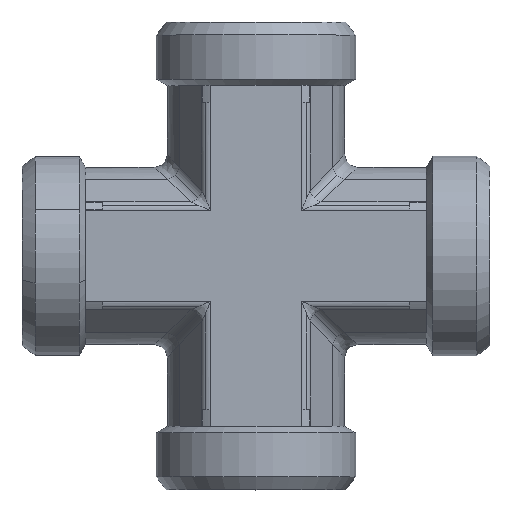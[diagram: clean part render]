
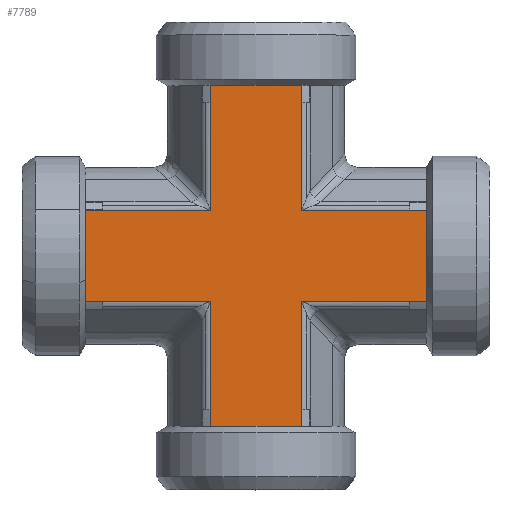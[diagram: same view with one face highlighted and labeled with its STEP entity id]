
A CAD part, top view. The second image highlights one B-rep face of the part: STEP entity #7789.
In plain terms, the highlighted planar face has unit normal (0, 0, 1) as drawn and (0, -1, 0) by its records, which use the part's own axes.
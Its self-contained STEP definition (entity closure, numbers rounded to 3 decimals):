
#915=CARTESIAN_POINT('',(-30.0,-13.25,0.));
#916=VERTEX_POINT('',#915);
#1032=CARTESIAN_POINT('',(-11.284,-13.25,-6.784));
#1033=VERTEX_POINT('',#1032);
#1041=CARTESIAN_POINT('',(-30.0,-13.25,-6.784));
#1042=VERTEX_POINT('',#1041);
#1043=CARTESIAN_POINT('',(-11.284,-13.25,-6.784));
#1044=DIRECTION('',(-1.0,0.0,0.0));
#1045=VECTOR('',#1044,18.716);
#1046=LINE('',#1043,#1045);
#1047=EDGE_CURVE('',#1033,#1042,#1046,.T.);
#1108=CARTESIAN_POINT('',(-30.0,-13.25,6.784));
#1109=VERTEX_POINT('',#1108);
#1117=CARTESIAN_POINT('',(-11.284,-13.25,6.784));
#1118=VERTEX_POINT('',#1117);
#1119=CARTESIAN_POINT('',(-30.0,-13.25,6.784));
#1120=DIRECTION('',(1.0,0.0,0.0));
#1121=VECTOR('',#1120,18.716);
#1122=LINE('',#1119,#1121);
#1123=EDGE_CURVE('',#1109,#1118,#1122,.T.);
#1452=CARTESIAN_POINT('',(-4.5,-13.25,25.5));
#1453=VERTEX_POINT('',#1452);
#1576=CARTESIAN_POINT('',(-11.284,-13.25,25.5));
#1577=VERTEX_POINT('',#1576);
#1578=CARTESIAN_POINT('',(-11.284,-13.25,6.784));
#1579=DIRECTION('',(0.0,0.0,1.0));
#1580=VECTOR('',#1579,18.716);
#1581=LINE('',#1578,#1580);
#1582=EDGE_CURVE('',#1118,#1577,#1581,.T.);
#2036=CARTESIAN_POINT('',(21.0,-13.25,0.));
#2037=VERTEX_POINT('',#2036);
#2145=CARTESIAN_POINT('',(2.284,-13.25,6.784));
#2146=VERTEX_POINT('',#2145);
#2154=CARTESIAN_POINT('',(21.0,-13.25,6.784));
#2155=VERTEX_POINT('',#2154);
#2156=CARTESIAN_POINT('',(2.284,-13.25,6.784));
#2157=DIRECTION('',(1.0,0.0,0.0));
#2158=VECTOR('',#2157,18.716);
#2159=LINE('',#2156,#2158);
#2160=EDGE_CURVE('',#2146,#2155,#2159,.T.);
#2709=CARTESIAN_POINT('',(2.284,-13.25,-6.784));
#2710=VERTEX_POINT('',#2709);
#2718=CARTESIAN_POINT('',(2.284,-13.25,-25.5));
#2719=VERTEX_POINT('',#2718);
#2720=CARTESIAN_POINT('',(2.284,-13.25,-6.784));
#2721=DIRECTION('',(0.0,0.0,-1.0));
#2722=VECTOR('',#2721,18.716);
#2723=LINE('',#2720,#2722);
#2724=EDGE_CURVE('',#2710,#2719,#2723,.T.);
#3745=CARTESIAN_POINT('',(-11.284,-13.25,-25.5));
#3746=VERTEX_POINT('',#3745);
#3754=CARTESIAN_POINT('',(-11.284,-13.25,-6.784));
#3755=DIRECTION('',(0.0,0.0,-1.0));
#3756=VECTOR('',#3755,18.716);
#3757=LINE('',#3754,#3756);
#3758=EDGE_CURVE('',#1033,#3746,#3757,.T.);
#3818=CARTESIAN_POINT('',(-4.5,-13.25,-25.5));
#3819=VERTEX_POINT('',#3818);
#3914=CARTESIAN_POINT('',(-4.5,-13.25,-25.5));
#3915=DIRECTION('',(1.0,0.0,0.0));
#3916=VECTOR('',#3915,6.784);
#3917=LINE('',#3914,#3916);
#3918=EDGE_CURVE('',#3819,#2719,#3917,.T.);
#3947=CARTESIAN_POINT('',(-11.284,-13.25,-25.5));
#3948=DIRECTION('',(1.0,0.0,0.0));
#3949=VECTOR('',#3948,6.784);
#3950=LINE('',#3947,#3949);
#3951=EDGE_CURVE('',#3746,#3819,#3950,.T.);
#4349=CARTESIAN_POINT('',(21.0,-13.25,-6.784));
#4350=VERTEX_POINT('',#4349);
#4358=CARTESIAN_POINT('',(2.284,-13.25,-6.784));
#4359=DIRECTION('',(1.0,0.0,0.0));
#4360=VECTOR('',#4359,18.716);
#4361=LINE('',#4358,#4360);
#4362=EDGE_CURVE('',#2710,#4350,#4361,.T.);
#4558=CARTESIAN_POINT('',(21.0,-13.25,-6.784));
#4559=DIRECTION('',(0.0,0.0,1.0));
#4560=VECTOR('',#4559,6.784);
#4561=LINE('',#4558,#4560);
#4562=EDGE_CURVE('',#4350,#2037,#4561,.T.);
#4575=CARTESIAN_POINT('',(21.0,-13.25,0.));
#4576=DIRECTION('',(0.0,0.0,1.0));
#4577=VECTOR('',#4576,6.784);
#4578=LINE('',#4575,#4577);
#4579=EDGE_CURVE('',#2037,#2155,#4578,.T.);
#5027=CARTESIAN_POINT('',(2.284,-13.25,25.5));
#5028=VERTEX_POINT('',#5027);
#5036=CARTESIAN_POINT('',(2.284,-13.25,6.784));
#5037=DIRECTION('',(0.0,0.0,1.0));
#5038=VECTOR('',#5037,18.716);
#5039=LINE('',#5036,#5038);
#5040=EDGE_CURVE('',#2146,#5028,#5039,.T.);
#5228=CARTESIAN_POINT('',(2.284,-13.25,25.5));
#5229=DIRECTION('',(-1.0,0.0,0.0));
#5230=VECTOR('',#5229,6.784);
#5231=LINE('',#5228,#5230);
#5232=EDGE_CURVE('',#5028,#1453,#5231,.T.);
#5245=CARTESIAN_POINT('',(-4.5,-13.25,25.5));
#5246=DIRECTION('',(-1.0,0.0,0.0));
#5247=VECTOR('',#5246,6.784);
#5248=LINE('',#5245,#5247);
#5249=EDGE_CURVE('',#1453,#1577,#5248,.T.);
#5879=CARTESIAN_POINT('',(-30.0,-13.25,6.784));
#5880=DIRECTION('',(0.0,0.0,-1.0));
#5881=VECTOR('',#5880,6.784);
#5882=LINE('',#5879,#5881);
#5883=EDGE_CURVE('',#1109,#916,#5882,.T.);
#5896=CARTESIAN_POINT('',(-30.0,-13.25,0.));
#5897=DIRECTION('',(0.0,0.0,-1.0));
#5898=VECTOR('',#5897,6.784);
#5899=LINE('',#5896,#5898);
#5900=EDGE_CURVE('',#916,#1042,#5899,.T.);
#7766=CARTESIAN_POINT('',(-4.5,-13.25,-7.65));
#7767=DIRECTION('',(0.0,-1.0,0.0));
#7768=DIRECTION('',(0.0,0.0,-1.0));
#7769=AXIS2_PLACEMENT_3D('',#7766,#7767,#7768);
#7770=PLANE('',#7769);
#7771=ORIENTED_EDGE('',*,*,#1047,.F.);
#7772=ORIENTED_EDGE('',*,*,#3758,.T.);
#7773=ORIENTED_EDGE('',*,*,#3951,.T.);
#7774=ORIENTED_EDGE('',*,*,#3918,.T.);
#7775=ORIENTED_EDGE('',*,*,#2724,.F.);
#7776=ORIENTED_EDGE('',*,*,#4362,.T.);
#7777=ORIENTED_EDGE('',*,*,#4562,.T.);
#7778=ORIENTED_EDGE('',*,*,#4579,.T.);
#7779=ORIENTED_EDGE('',*,*,#2160,.F.);
#7780=ORIENTED_EDGE('',*,*,#5040,.T.);
#7781=ORIENTED_EDGE('',*,*,#5232,.T.);
#7782=ORIENTED_EDGE('',*,*,#5249,.T.);
#7783=ORIENTED_EDGE('',*,*,#1582,.F.);
#7784=ORIENTED_EDGE('',*,*,#1123,.F.);
#7785=ORIENTED_EDGE('',*,*,#5883,.T.);
#7786=ORIENTED_EDGE('',*,*,#5900,.T.);
#7787=EDGE_LOOP('',(#7771,#7772,#7773,#7774,#7775,#7776,#7777,#7778,#7779,#7780,#7781,#7782,#7783,#7784,#7785,#7786));
#7788=FACE_OUTER_BOUND('',#7787,.T.);
#7789=ADVANCED_FACE('',(#7788),#7770,.T.);
